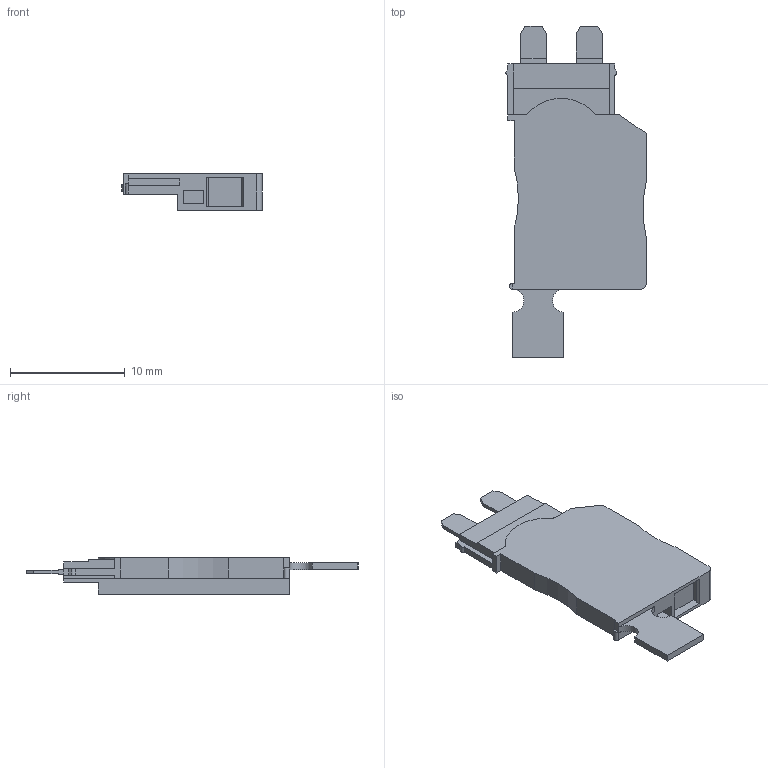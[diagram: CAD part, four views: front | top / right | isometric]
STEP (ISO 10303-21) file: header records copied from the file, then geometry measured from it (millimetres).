
FILE_DESCRIPTION( ('This file contains a STEP AP42 implementation' ,'as created by ZW3D STEP Interface translator.') ,'2;1' );
FILE_NAME( 'RP-FULED 5X20 BK.stp' ,'24 726.153555', (''), ('ZWCAD Software Co.'), 'Version 1.0', 'ZW3D to STEP translator', '' );
FILE_SCHEMA(('AUTOMOTIVE_DESIGN { 1 0 10303 214 1 1 1 1 }'));
Length unit declared in the file: millimetre
Products named in the file (2): 0; RP-FU5X20LED24 BK-20231127(1)
Bounding box: 12.24 x 28.98 x 3.17 mm (x, y, z)
Volume: 532.8 mm3; surface area: 718.9 mm2
Topology: 1 solids, 1 shells, 90 faces, 248 edges, 164 vertices
Faces by surface type: plane 79, cylinder 11
Entity records: 2942 total; most frequent: CARTESIAN_POINT 506, ORIENTED_EDGE 496, DIRECTION 451, EDGE_CURVE 248, VECTOR 225, LINE 225, VERTEX_POINT 164, AXIS2_PLACEMENT_3D 113
